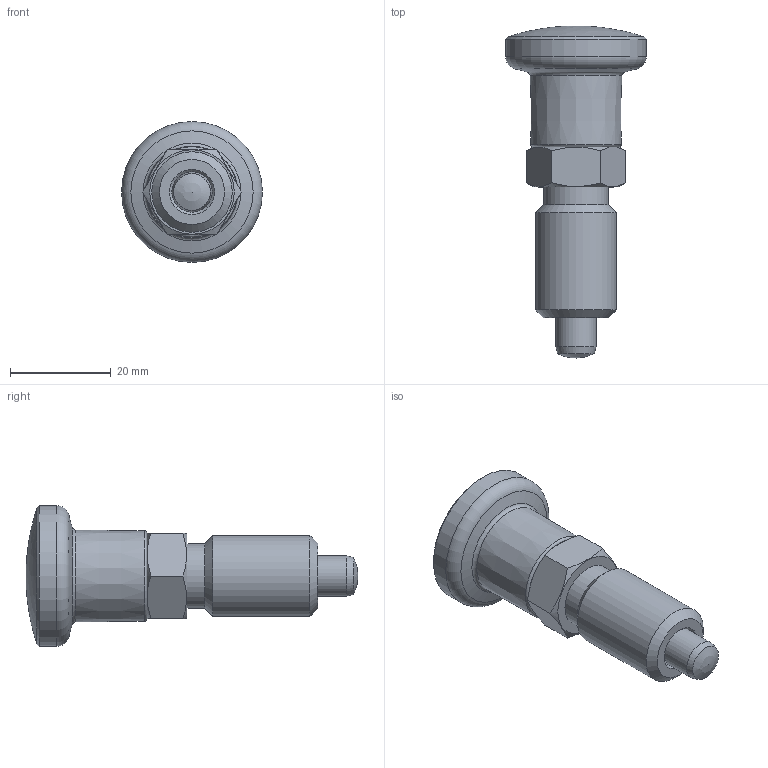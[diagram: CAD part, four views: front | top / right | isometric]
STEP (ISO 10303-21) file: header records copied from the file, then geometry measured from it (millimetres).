
FILE_DESCRIPTION( ( 'STEP AP203' ), '1' );
FILE_NAME( 'C:/Temp/Ganter_Step_05_03_2020/data/3_1/gn817/gn817_ni-rastbolzen_rot/Stainless steel-Indexing plunger GN 817-8-8-B-NI-RT (deactivated).stp', '2020-03-12T09:00:17', ( 'License CC BY-ND 4.0' ), ( 'CADENAS' ), ' ', 'PARTsolutions', ' ' );
FILE_SCHEMA( ( 'CONFIG_CONTROL_DESIGN' ) );
Length unit declared in the file: millimetre
Products named in the file (4): Stainless steel-Indexing plunger GN 817-8-8-B-NI-RT (deactivated); _Stainless steel-Indexing plunger GN 817-8-8-B-NI-RT (deactivated)-d; _Stainless steel-Indexing plunger GN 817-8-8-B-NI-RT-2; _Stainless Steel Indexing plunger GN 817-8-8-B-NI-RT-1
Assembly tree (3 placements, depth 2):
  Stainless steel-Indexing plunger GN 817-8-8-B-NI-RT (deactivated)
    _Stainless steel-Indexing plunger GN 817-8-8-B-NI-RT (deactivated)-d
    _Stainless steel-Indexing plunger GN 817-8-8-B-NI-RT-2
    _Stainless Steel Indexing plunger GN 817-8-8-B-NI-RT-1
Bounding box: 28 x 66 x 28 mm (x, y, z)
Volume: 15553.6 mm3; surface area: 6517.6 mm2
Topology: 2 solids, 2 shells, 36 faces, 73 edges, 44 vertices
Faces by surface type: plane 12, cone 10, cylinder 7, torus 5, bspline 1, sphere 1
Full cylindrical faces by diameter (mm): 6 x2, 8 x2, 12.8 x1, 16 x1, 28 x1
Entity records: 1058 total; most frequent: CARTESIAN_POINT 280, DIRECTION 140, ORIENTED_EDGE 92, AXIS2_PLACEMENT_3D 67, EDGE_LOOP 64, FACE_OUTER_BOUND 48, EDGE_CURVE 46, VERTEX_POINT 42
